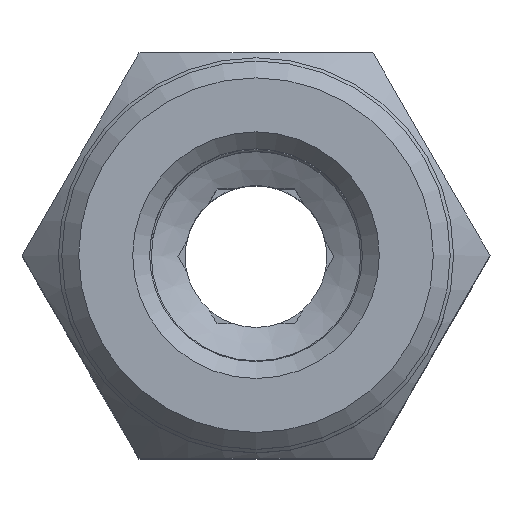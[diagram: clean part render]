
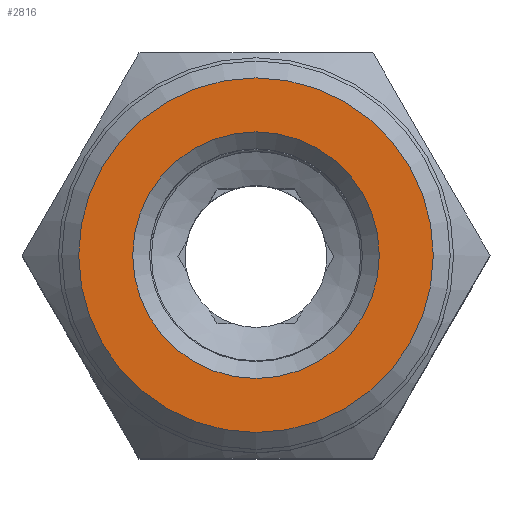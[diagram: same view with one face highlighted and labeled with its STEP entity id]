
A CAD part, top view. The second image highlights one B-rep face of the part: STEP entity #2816.
In plain terms, the highlighted planar face has unit normal (0, 0, 1) as drawn and (0, 1, 0) by its records, which use the part's own axes.
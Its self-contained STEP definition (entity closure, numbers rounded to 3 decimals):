
#1525=ORIENTED_EDGE('',*,*,#1788,.T.);
#1526=ORIENTED_EDGE('',*,*,#1789,.F.);
#1588=CIRCLE('',#2706,5.25);
#1589=CIRCLE('',#2707,3.65);
#1673=VERTEX_POINT('',#2546);
#1674=VERTEX_POINT('',#2548);
#1788=EDGE_CURVE('',#1673,#1673,#1588,.T.);
#1789=EDGE_CURVE('',#1674,#1674,#1589,.T.);
#1870=EDGE_LOOP('',(#1525));
#1871=EDGE_LOOP('',(#1526));
#1966=FACE_BOUND('',#1870,.T.);
#1967=FACE_BOUND('',#1871,.T.);
#2262=DIRECTION('',(0.,1.,0.));
#2263=DIRECTION('',(1.,0.,0.));
#2264=DIRECTION('',(0.,1.,0.));
#2265=DIRECTION('',(0.,0.,-5.25));
#2266=DIRECTION('',(0.,1.,0.));
#2267=DIRECTION('',(0.,0.,-3.65));
#2545=CARTESIAN_POINT('',(-1.277,-57.636,0.));
#2546=CARTESIAN_POINT('',(-6.527,-57.636,0.));
#2547=CARTESIAN_POINT('',(-1.277,-57.636,0.));
#2548=CARTESIAN_POINT('',(-4.927,-57.636,0.));
#2549=CARTESIAN_POINT('',(-1.277,-57.636,0.));
#2705=AXIS2_PLACEMENT_3D('',#2545,#2262,#2263);
#2706=AXIS2_PLACEMENT_3D('',#2547,#2264,#2265);
#2707=AXIS2_PLACEMENT_3D('',#2549,#2266,#2267);
#2763=PLANE('',#2705);
#2816=ADVANCED_FACE('',(#1966,#1967),#2763,.T.);
